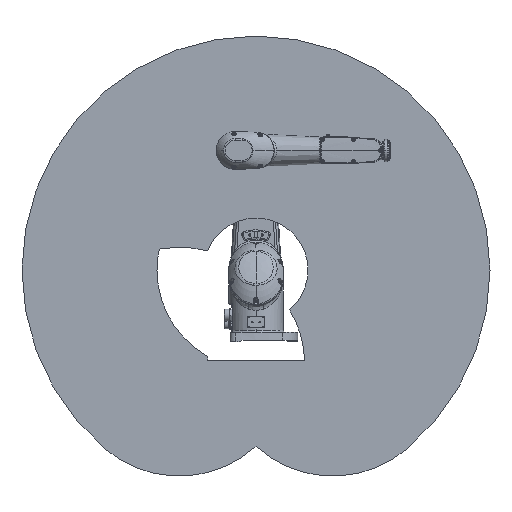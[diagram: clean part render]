
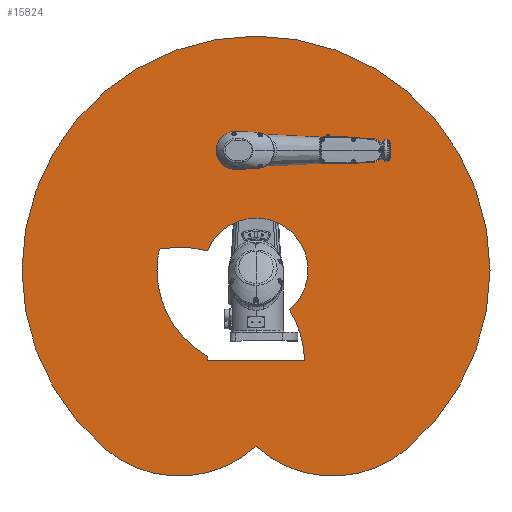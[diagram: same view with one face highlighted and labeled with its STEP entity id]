
A CAD part, top view. The second image highlights one B-rep face of the part: STEP entity #15824.
In plain terms, the highlighted planar face has unit normal (0, 0, 1) as drawn and (0, 0, -1) by its records, which use the part's own axes.
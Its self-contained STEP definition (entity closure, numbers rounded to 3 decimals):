
#280 = CARTESIAN_POINT ( 'NONE',  ( -295.682, -352.38, -0.5 ) ) ;
#968 = CIRCLE ( 'NONE', #97396, 375. ) ;
#3455 = ORIENTED_EDGE ( 'NONE', *, *, #117614, .F. ) ;
#4881 = AXIS2_PLACEMENT_3D ( 'NONE', #102409, #36895, #113391 ) ;
#6688 = AXIS2_PLACEMENT_3D ( 'NONE', #103974, #38492, #114968 ) ;
#9423 = EDGE_CURVE ( 'NONE', #133249, #126853, #82329, .T. ) ;
#10714 = CARTESIAN_POINT ( 'NONE',  ( 900., 0., -0.5 ) ) ;
#11290 = DIRECTION ( 'NONE',  ( -1., 0., 0. ) ) ;
#12551 = CARTESIAN_POINT ( 'NONE',  ( 372.087, 80.935, -0.5 ) ) ;
#14844 = EDGE_CURVE ( 'NONE', #30182, #79667, #52926, .T. ) ;
#15777 = CARTESIAN_POINT ( 'NONE',  ( -128.558, -153.209, -0.5 ) ) ;
#15824 = ADVANCED_FACE ( 'NONE', ( #88726, #30645 ), #140360, .F. ) ;
#16578 = ORIENTED_EDGE ( 'NONE', *, *, #97340, .F. ) ;
#20541 = CARTESIAN_POINT ( 'NONE',  ( 0., -352.38, -0.5 ) ) ;
#20771 = CIRCLE ( 'NONE', #111408, 200. ) ;
#24001 = CARTESIAN_POINT ( 'NONE',  ( 0., 0., -0.5 ) ) ;
#24255 = VECTOR ( 'NONE', #124928, 1000. ) ;
#29057 = CIRCLE ( 'NONE', #95910, 900. ) ;
#29063 = DIRECTION ( 'NONE',  ( 0., 0., -1. ) ) ;
#29902 = CARTESIAN_POINT ( 'NONE',  ( 0., 0., -0.5 ) ) ;
#30182 = VERTEX_POINT ( 'NONE', #34260 ) ;
#30562 = AXIS2_PLACEMENT_3D ( 'NONE', #130002, #64547, #140943 ) ;
#30581 = CIRCLE ( 'NONE', #31029, 900. ) ;
#30645 = FACE_BOUND ( 'NONE', #112776, .T. ) ;
#30700 = VERTEX_POINT ( 'NONE', #77066 ) ;
#31029 = AXIS2_PLACEMENT_3D ( 'NONE', #56725, #133167, #67730 ) ;
#31526 = DIRECTION ( 'NONE',  ( 1., 0., 0. ) ) ;
#33475 = ORIENTED_EDGE ( 'NONE', *, *, #139965, .F. ) ;
#34218 = AXIS2_PLACEMENT_3D ( 'NONE', #20541, #96980, #31526 ) ;
#34260 = CARTESIAN_POINT ( 'NONE',  ( -578.509, -689.44, -0.5 ) ) ;
#34949 = DIRECTION ( 'NONE',  ( 1., 0., 0. ) ) ;
#35126 = EDGE_CURVE ( 'NONE', #103281, #99256, #29057, .T. ) ;
#36789 = EDGE_CURVE ( 'NONE', #30700, #103281, #30581, .T. ) ;
#36895 = DIRECTION ( 'NONE',  ( 0., 0., -1. ) ) ;
#37911 = VERTEX_POINT ( 'NONE', #15777 ) ;
#38161 = ORIENTED_EDGE ( 'NONE', *, *, #9423, .F. ) ;
#38492 = DIRECTION ( 'NONE',  ( 0., 0., 1. ) ) ;
#40801 = VERTEX_POINT ( 'NONE', #12551 ) ;
#40848 = DIRECTION ( 'NONE',  ( -1., 0., 0. ) ) ;
#41020 = AXIS2_PLACEMENT_3D ( 'NONE', #64345, #140750, #75338 ) ;
#44252 = CARTESIAN_POINT ( 'NONE',  ( 186.142, -332.191, -0.5 ) ) ;
#49086 = ORIENTED_EDGE ( 'NONE', *, *, #102760, .F. ) ;
#50453 = CARTESIAN_POINT ( 'NONE',  ( 295.682, -352.38, -0.5 ) ) ;
#52926 = CIRCLE ( 'NONE', #130243, 440. ) ;
#53811 = CARTESIAN_POINT ( 'NONE',  ( 188.23, -353.884, -0.5 ) ) ;
#56725 = CARTESIAN_POINT ( 'NONE',  ( 0., 0., -0.5 ) ) ;
#58125 = ORIENTED_EDGE ( 'NONE', *, *, #140705, .F. ) ;
#58458 = VERTEX_POINT ( 'NONE', #137630 ) ;
#60384 = VERTEX_POINT ( 'NONE', #78057 ) ;
#60641 = CARTESIAN_POINT ( 'NONE',  ( -186.727, -348.221, -0.5 ) ) ;
#61439 = DIRECTION ( 'NONE',  ( 1., 0., 0. ) ) ;
#62636 = CIRCLE ( 'NONE', #30562, 375. ) ;
#64345 = CARTESIAN_POINT ( 'NONE',  ( 295.682, -352.38, -0.5 ) ) ;
#64547 = DIRECTION ( 'NONE',  ( 0., 0., -1. ) ) ;
#64820 = DIRECTION ( 'NONE',  ( 1., 0., 0. ) ) ;
#66539 = CARTESIAN_POINT ( 'NONE',  ( 186.727, -348.221, -0.5 ) ) ;
#66649 = ORIENTED_EDGE ( 'NONE', *, *, #129742, .F. ) ;
#67102 = CIRCLE ( 'NONE', #112268, 380.788 ) ;
#67730 = DIRECTION ( 'NONE',  ( -1., 0., 0. ) ) ;
#73188 = CARTESIAN_POINT ( 'NONE',  ( -900., 0., -0.5 ) ) ;
#75338 = DIRECTION ( 'NONE',  ( -1., 0., 0. ) ) ;
#76679 = DIRECTION ( 'NONE',  ( 0., 0., 1. ) ) ;
#77066 = CARTESIAN_POINT ( 'NONE',  ( 578.509, -689.44, -0.5 ) ) ;
#78057 = CARTESIAN_POINT ( 'NONE',  ( 185.922, 73.709, -0.5 ) ) ;
#79667 = VERTEX_POINT ( 'NONE', #131678 ) ;
#81799 = AXIS2_PLACEMENT_3D ( 'NONE', #50453, #126945, #61439 ) ;
#82329 = LINE ( 'NONE', #135879, #24255 ) ;
#82611 = EDGE_CURVE ( 'NONE', #60384, #40801, #86641, .T. ) ;
#85023 = CIRCLE ( 'NONE', #6688, 900. ) ;
#86641 = CIRCLE ( 'NONE', #81799, 440. ) ;
#88726 = FACE_OUTER_BOUND ( 'NONE', #91441, .T. ) ;
#91441 = EDGE_LOOP ( 'NONE', ( #102856, #122678, #114307, #126622, #49086 ) ) ;
#94489 = CARTESIAN_POINT ( 'NONE',  ( 0., 0., -0.5 ) ) ;
#95910 = AXIS2_PLACEMENT_3D ( 'NONE', #29902, #106335, #40848 ) ;
#96486 = EDGE_CURVE ( 'NONE', #99256, #30182, #85023, .T. ) ;
#96980 = DIRECTION ( 'NONE',  ( 0., 0., 1. ) ) ;
#97340 = EDGE_CURVE ( 'NONE', #101884, #133249, #62636, .T. ) ;
#97396 = AXIS2_PLACEMENT_3D ( 'NONE', #53811, #130264, #64820 ) ;
#98877 = CIRCLE ( 'NONE', #41020, 440. ) ;
#99256 = VERTEX_POINT ( 'NONE', #73188 ) ;
#100429 = DIRECTION ( 'NONE',  ( 0., 0., -1. ) ) ;
#101884 = VERTEX_POINT ( 'NONE', #44252 ) ;
#102409 = CARTESIAN_POINT ( 'NONE',  ( 0., 0., -0.5 ) ) ;
#102760 = EDGE_CURVE ( 'NONE', #79667, #30700, #98877, .T. ) ;
#102856 = ORIENTED_EDGE ( 'NONE', *, *, #14844, .F. ) ;
#103281 = VERTEX_POINT ( 'NONE', #10714 ) ;
#103974 = CARTESIAN_POINT ( 'NONE',  ( 0., 0., -0.5 ) ) ;
#105478 = DIRECTION ( 'NONE',  ( 1., 0., 0. ) ) ;
#106335 = DIRECTION ( 'NONE',  ( 0., 0., 1. ) ) ;
#111408 = AXIS2_PLACEMENT_3D ( 'NONE', #24001, #100429, #34949 ) ;
#112268 = AXIS2_PLACEMENT_3D ( 'NONE', #94489, #29063, #105478 ) ;
#112776 = EDGE_LOOP ( 'NONE', ( #3455, #58125, #38161, #16578, #33475, #66649, #126484 ) ) ;
#113391 = DIRECTION ( 'NONE',  ( 1., 0., 0. ) ) ;
#114307 = ORIENTED_EDGE ( 'NONE', *, *, #35126, .F. ) ;
#114968 = DIRECTION ( 'NONE',  ( -1., 0., 0. ) ) ;
#117614 = EDGE_CURVE ( 'NONE', #37911, #60384, #20771, .T. ) ;
#122678 = ORIENTED_EDGE ( 'NONE', *, *, #96486, .F. ) ;
#124928 = DIRECTION ( 'NONE',  ( -1., 0., 0. ) ) ;
#126484 = ORIENTED_EDGE ( 'NONE', *, *, #82611, .F. ) ;
#126622 = ORIENTED_EDGE ( 'NONE', *, *, #36789, .F. ) ;
#126853 = VERTEX_POINT ( 'NONE', #60641 ) ;
#126945 = DIRECTION ( 'NONE',  ( 0., 0., -1. ) ) ;
#129742 = EDGE_CURVE ( 'NONE', #40801, #58458, #67102, .T. ) ;
#130002 = CARTESIAN_POINT ( 'NONE',  ( -188.23, -353.884, -0.5 ) ) ;
#130243 = AXIS2_PLACEMENT_3D ( 'NONE', #280, #76679, #11290 ) ;
#130264 = DIRECTION ( 'NONE',  ( 0., 0., -1. ) ) ;
#131678 = CARTESIAN_POINT ( 'NONE',  ( 0., -678.221, -0.5 ) ) ;
#132654 = CIRCLE ( 'NONE', #4881, 380.788 ) ;
#133167 = DIRECTION ( 'NONE',  ( 0., 0., 1. ) ) ;
#133249 = VERTEX_POINT ( 'NONE', #66539 ) ;
#135879 = CARTESIAN_POINT ( 'NONE',  ( 0., -348.221, -0.5 ) ) ;
#137630 = CARTESIAN_POINT ( 'NONE',  ( 380.788, 0., -0.5 ) ) ;
#139965 = EDGE_CURVE ( 'NONE', #58458, #101884, #132654, .T. ) ;
#140360 = PLANE ( 'NONE',  #34218 ) ;
#140705 = EDGE_CURVE ( 'NONE', #126853, #37911, #968, .T. ) ;
#140750 = DIRECTION ( 'NONE',  ( 0., 0., 1. ) ) ;
#140943 = DIRECTION ( 'NONE',  ( 1., 0., 0. ) ) ;
